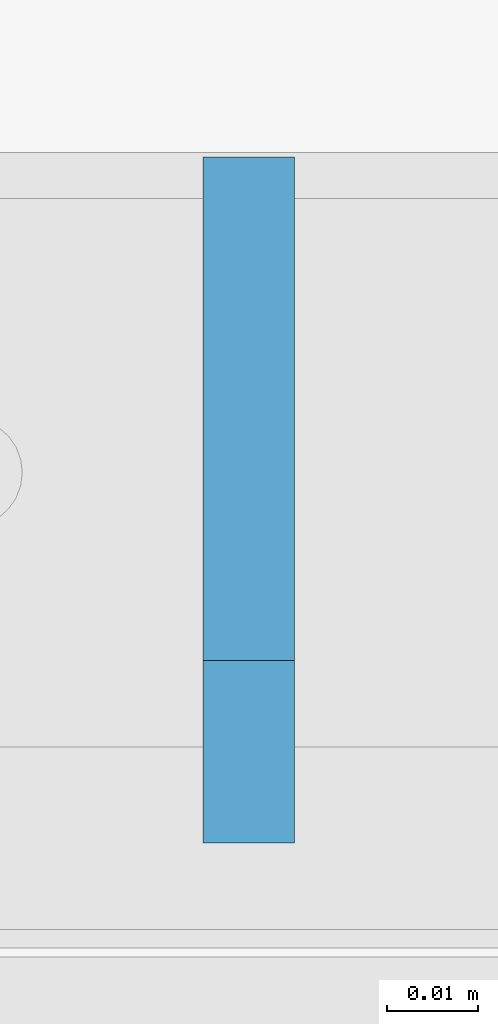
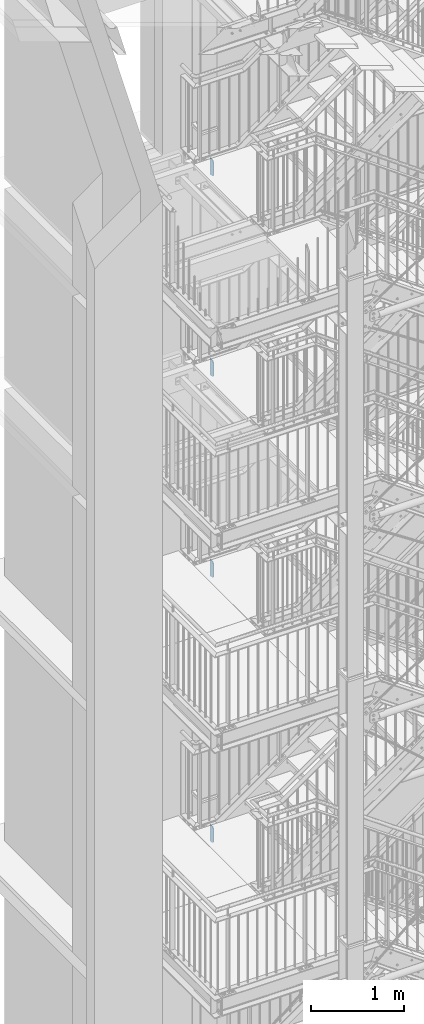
# One storey, part 187 of 821: 4 plates, 8 openings.
"""IFC2X3 building model written with IfcOpenShell, lengths in millimetres."""

from ifc_helpers import new_model, entity, si_unit, converted_unit, frame, origin, origin_with_axes, place, context, project, spatial, polyline, outline, extrude, material, layer, layer_set, element, save


model = new_model("IFC2X3")

# Units and contexts
model_context = context("Model", 3, precision=1e-09, world=origin_with_axes())
ifc_project = project(units=[si_unit("LENGTHUNIT", "METRE", prefix="MILLI"), si_unit("AREAUNIT", "SQUARE_METRE"), si_unit("VOLUMEUNIT", "CUBIC_METRE"), converted_unit("PLANEANGLEUNIT", "DEGREE", entity("IfcPlaneAngleMeasure", 0.01745329), si_unit("PLANEANGLEUNIT", "RADIAN"), dimensions=[0, 0, 0, 0, 0, 0, 0])], contexts=[model_context])

# Site, building, storey
site_placement = place(None, origin_with_axes())
site = spatial("IfcSite", under=ifc_project, at=site_placement, Name="Cnopf'sche Kinderklinik", CompositionType="ELEMENT")
building_placement = place(site_placement, origin_with_axes())
building = spatial("IfcBuilding", under=site, at=building_placement, Name="Struktur 1", CompositionType="ELEMENT")
storey_placement = place(building_placement, origin_with_axes())
storey = spatial("IfcBuildingStorey", under=building, at=storey_placement, Name="Default Storey", CompositionType="ELEMENT", Elevation=0.0)

# Plate, openings
ifc_material = material(Name="S235JR")
ifc_layer = layer(ifc_material, 10.0)
ifc_layer_set = layer_set([ifc_layer], Name="S235JR")
plate_1_placement = place(None, frame((4861.713402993, 7316.236971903, 3829.855161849), z_axis=(-1.0, 0.0, 0.0), x_axis=(0.0, 0.996815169, 0.079746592)))
plate_1 = element("IfcPlate", 1, at=plate_1_placement, inside=storey, material=ifc_layer_set, Name="Stiffener#1", ObjectType="Stiffener#1", context=model_context, shape_type="SweptSolid", body=[
    extrude(outline(polyline([(0.0, 0.0), (75.239625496, 0.0), (57.877952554, 217.017159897), (-16.404697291, 205.05517107), (0.0, 0.0)])), origin_with_axes(), (0.0, 0.0, 1.0), 10.0),
])
opening_1_placement = place(plate_1_placement, frame((0.0, 0.0, -0.01), z_axis=(0.0, 0.0, 1.0), x_axis=(1.0, 0.0, 0.0)))
element("IfcOpeningElement", 2, at=opening_1_placement, cuts=plate_1, ObjectType="Opening", context=model_context, shape_type="SweptSolid", body=[
    extrude(outline(polyline([(-16.404697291, 205.05517107), (-14.809765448, 185.118867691), (3.34092195, 208.23487558), (-16.404697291, 205.05517107)])), origin(), (0.0, 0.0, 1.0), 10.02),
])
opening_2_placement = place(plate_1_placement, frame((0.0, 0.0, -0.01), z_axis=(0.0, 0.0, 1.0), x_axis=(1.0, 0.0, 0.0)))
element("IfcOpeningElement", 3, at=opening_2_placement, cuts=plate_1, ObjectType="Opening", context=model_context, shape_type="SweptSolid", body=[
    extrude(outline(polyline([(0.0, 0.0), (20.0, 0.0), (-1.594931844, 19.936303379), (0.0, 0.0)])), origin(), (0.0, 0.0, 1.0), 10.02),
])

plate_2_placement = place(None, frame((4861.713402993, 7316.236971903, 7302.855161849), z_axis=(-1.0, 0.0, 0.0), x_axis=(0.0, 0.996815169, 0.079746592)))
plate_2 = element("IfcPlate", 4, at=plate_2_placement, inside=storey, material=ifc_layer_set, Name="Stiffener#1", ObjectType="Stiffener#1", context=model_context, shape_type="SweptSolid", body=[
    extrude(outline(polyline([(0.0, 0.0), (75.239625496, 0.0), (57.877952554, 217.017159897), (-16.404697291, 205.05517107), (0.0, 0.0)])), origin_with_axes(), (0.0, 0.0, 1.0), 10.0),
])
opening_3_placement = place(plate_2_placement, frame((0.0, 0.0, -0.01), z_axis=(0.0, 0.0, 1.0), x_axis=(1.0, 0.0, 0.0)))
element("IfcOpeningElement", 5, at=opening_3_placement, cuts=plate_2, ObjectType="Opening", context=model_context, shape_type="SweptSolid", body=[
    extrude(outline(polyline([(-16.404697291, 205.05517107), (-14.809765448, 185.118867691), (3.34092195, 208.23487558), (-16.404697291, 205.05517107)])), origin(), (0.0, 0.0, 1.0), 10.02),
])
opening_4_placement = place(plate_2_placement, frame((0.0, 0.0, -0.01), z_axis=(0.0, 0.0, 1.0), x_axis=(1.0, 0.0, 0.0)))
element("IfcOpeningElement", 6, at=opening_4_placement, cuts=plate_2, ObjectType="Opening", context=model_context, shape_type="SweptSolid", body=[
    extrude(outline(polyline([(0.0, 0.0), (20.0, 0.0), (-1.594931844, 19.936303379), (0.0, 0.0)])), origin(), (0.0, 0.0, 1.0), 10.02),
])

plate_3_placement = place(None, frame((4861.713402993, 7316.236971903, 9934.855161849), z_axis=(-1.0, 0.0, 0.0), x_axis=(0.0, 0.996815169, 0.079746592)))
plate_3 = element("IfcPlate", 7, at=plate_3_placement, inside=storey, material=ifc_layer_set, Name="Stiffener#1", ObjectType="Stiffener#1", context=model_context, shape_type="SweptSolid", body=[
    extrude(outline(polyline([(0.0, 0.0), (75.239625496, 0.0), (57.877952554, 217.017159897), (-16.404697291, 205.05517107), (0.0, 0.0)])), origin_with_axes(), (0.0, 0.0, 1.0), 10.0),
])
opening_5_placement = place(plate_3_placement, frame((0.0, 0.0, -0.01), z_axis=(0.0, 0.0, 1.0), x_axis=(1.0, 0.0, 0.0)))
element("IfcOpeningElement", 8, at=opening_5_placement, cuts=plate_3, ObjectType="Opening", context=model_context, shape_type="SweptSolid", body=[
    extrude(outline(polyline([(-16.404697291, 205.05517107), (-14.809765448, 185.118867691), (3.34092195, 208.23487558), (-16.404697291, 205.05517107)])), origin(), (0.0, 0.0, 1.0), 10.02),
])
opening_6_placement = place(plate_3_placement, frame((0.0, 0.0, -0.01), z_axis=(0.0, 0.0, 1.0), x_axis=(1.0, 0.0, 0.0)))
element("IfcOpeningElement", 9, at=opening_6_placement, cuts=plate_3, ObjectType="Opening", context=model_context, shape_type="SweptSolid", body=[
    extrude(outline(polyline([(0.0, 0.0), (20.0, 0.0), (-1.594931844, 19.936303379), (0.0, 0.0)])), origin(), (0.0, 0.0, 1.0), 10.02),
])

plate_4_placement = place(None, frame((4861.713402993, 7316.236971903, 12561.855161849), z_axis=(-1.0, 0.0, 0.0), x_axis=(0.0, 0.996815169, 0.079746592)))
plate_4 = element("IfcPlate", 10, at=plate_4_placement, inside=storey, material=ifc_layer_set, Name="Stiffener#1", ObjectType="Stiffener#1", context=model_context, shape_type="SweptSolid", body=[
    extrude(outline(polyline([(0.0, 0.0), (75.239625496, 0.0), (57.877952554, 217.017159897), (-16.404697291, 205.05517107), (0.0, 0.0)])), origin_with_axes(), (0.0, 0.0, 1.0), 10.0),
])
opening_7_placement = place(plate_4_placement, frame((0.0, 0.0, -0.01), z_axis=(0.0, 0.0, 1.0), x_axis=(1.0, 0.0, 0.0)))
element("IfcOpeningElement", 11, at=opening_7_placement, cuts=plate_4, ObjectType="Opening", context=model_context, shape_type="SweptSolid", body=[
    extrude(outline(polyline([(-16.404697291, 205.05517107), (-14.809765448, 185.118867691), (3.34092195, 208.23487558), (-16.404697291, 205.05517107)])), origin(), (0.0, 0.0, 1.0), 10.02),
])
opening_8_placement = place(plate_4_placement, frame((0.0, 0.0, -0.01), z_axis=(0.0, 0.0, 1.0), x_axis=(1.0, 0.0, 0.0)))
element("IfcOpeningElement", 12, at=opening_8_placement, cuts=plate_4, ObjectType="Opening", context=model_context, shape_type="SweptSolid", body=[
    extrude(outline(polyline([(0.0, 0.0), (20.0, 0.0), (-1.594931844, 19.936303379), (0.0, 0.0)])), origin(), (0.0, 0.0, 1.0), 10.02),
])

save(model, "model.ifc")
